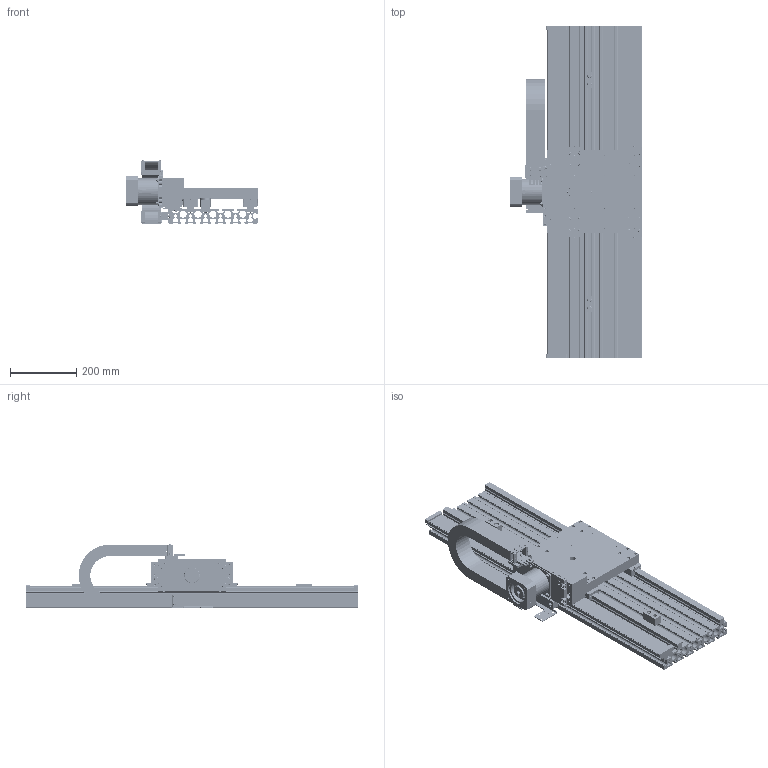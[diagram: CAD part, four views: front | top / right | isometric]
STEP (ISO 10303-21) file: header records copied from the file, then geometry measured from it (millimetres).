
FILE_DESCRIPTION( ( '' ), ' ' );
FILE_NAME( '/vol/tmp/translate-14925034404760815500/5c7eb100b628021adcd1ca6e.step', '2019-03-05T17:25:21', ( '' ), ( '' ), ' ', ' ', ' ' );
FILE_SCHEMA( ( 'AUTOMOTIVE_DESIGN { 1 0 10303 214 1 1 1 1 }' ) );
Length unit declared in the file: metre
Products named in the file (114): RAIL FASTENERS <9>; 20mm BEARING RAIL CAP; 102684-001 BOSCH 10mm T-BLOCK M5; 100001-8065 M5-.80 X 25 ALLOY SHCS; RAIL FASTENERS <16>; RAIL FASTENERS <2>; RAIL FASTENERS <4>; FASTENERS <3>; 100001-073 M6 X 12 SS SHCS; 102811-002 M6 T-NUT; RAIL FASTENERS <6>; RAIL FASTENERS <5>; RAIL FASTENERS <13>; FASTENERS <4>; RAIL FASTENERS <15>; RAIL FASTENERS <11>; RAIL FASTENERS <10>; RAIL FASTENERS <1>; RAIL FASTENERS <8>; FASTENERS <5>; RAIL FASTENERS <7>; RAIL FASTENERS <14>; RAIL FASTENERS <12>; RAIL FASTENERS <17>; FASTENERS <2>; RAIL FASTENERS <3>; FASTENERS <1>; IGUS E6-29-040 END BRACKET (1) <1>; iguse6-29-040-4(Default); iguse6-29-040-2; iguse6-29-040-1; iguse6-29-040-3(Default); RAIL <2>; 106888-001 20mm RAIL COVER; 102732-1000 20mm STANDARD GUIDE RAIL; RAIL <1>; POLYURETHANE BUMPLER <1>; 100033-001 3/8-16 POLYURETHANE BUMPER; 100003-015 3/8 SS FLAT WASHER; 100001-028 3/8-16 SS SOCKET HEAD CAP SCREW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
Assembly tree (300 placements, depth 5):
  Assem1
    103072-001 T10 X 50mm BELTING
    E6-29-40 LINKS
    1000 CHASSIS <1>
      102928-1000 45-SERIES PROFILE 45X270H
      RAIL <1>
        106888-001 20mm RAIL COVER
        102732-1000 20mm STANDARD GUIDE RAIL
        RAIL FASTENERS <12>
          20mm BEARING RAIL CAP
          100001-8065 M5-.80 X 25 ALLOY SHCS
          102684-001 BOSCH 10mm T-BLOCK M5
        RAIL FASTENERS <9>
          20mm BEARING RAIL CAP
          102684-001 BOSCH 10mm T-BLOCK M5
          100001-8065 M5-.80 X 25 ALLOY SHCS
        RAIL FASTENERS <10>
          20mm BEARING RAIL CAP
          102684-001 BOSCH 10mm T-BLOCK M5
          100001-8065 M5-.80 X 25 ALLOY SHCS
        RAIL FASTENERS <17>
          20mm BEARING RAIL CAP
          102684-001 BOSCH 10mm T-BLOCK M5
          100001-8065 M5-.80 X 25 ALLOY SHCS
        RAIL FASTENERS <4>
          100001-8065 M5-.80 X 25 ALLOY SHCS
          20mm BEARING RAIL CAP
          102684-001 BOSCH 10mm T-BLOCK M5
        RAIL FASTENERS <16>
          100001-8065 M5-.80 X 25 ALLOY SHCS
          102684-001 BOSCH 10mm T-BLOCK M5
          20mm BEARING RAIL CAP
        RAIL FASTENERS <5>
          20mm BEARING RAIL CAP
          102684-001 BOSCH 10mm T-BLOCK M5
          100001-8065 M5-.80 X 25 ALLOY SHCS
        RAIL FASTENERS <13>
          100001-8065 M5-.80 X 25 ALLOY SHCS
          102684-001 BOSCH 10mm T-BLOCK M5
          20mm BEARING RAIL CAP
        RAIL FASTENERS <6>
          20mm BEARING RAIL CAP
          102684-001 BOSCH 10mm T-BLOCK M5
          100001-8065 M5-.80 X 25 ALLOY SHCS
        RAIL FASTENERS <1>
          100001-8065 M5-.80 X 25 ALLOY SHCS
          102684-001 BOSCH 10mm T-BLOCK M5
          20mm BEARING RAIL CAP
        RAIL FASTENERS <14>
          100001-8065 M5-.80 X 25 ALLOY SHCS
          20mm BEARING RAIL CAP
          102684-001 BOSCH 10mm T-BLOCK M5
        RAIL FASTENERS <8>
          20mm BEARING RAIL CAP
          100001-8065 M5-.80 X 25 ALLOY SHCS
          102684-001 BOSCH 10mm T-BLOCK M5
        RAIL FASTENERS <7>
          100001-8065 M5-.80 X 25 ALLOY SHCS
          20mm BEARING RAIL CAP
          102684-001 BOSCH 10mm T-BLOCK M5
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Bounding box: 396.12 x 1000 x 189.79 mm (x, y, z)
Volume: 12189874.2 mm3; surface area: 3743972.1 mm2
Topology: 244 solids, 245 shells, 5941 faces, 15001 edges, 9921 vertices
Faces by surface type: plane 3828, cylinder 1643, cone 362, torus 98, sphere 6, bspline 4
Full cylindrical faces by diameter (mm): 1 x4, 2.2 x8, 2.5 x32, 2.54 x2, 2.6 x8, 2.66 x8, 3 x12, 3.3 x2, 3.6 x2, 3.988 x6, 4 x4, 4.2 x20, 4.216 x24, 4.5 x14, 5 x60, 5.004 x52, 5.1 x1, 5.5 x36, 5.8 x16, 5.867 x2, 5.994 x15, 6 x18, 6.2 x4, 6.4 x1, 6.5 x6, 6.6 x5, 6.8 x6, 6.858 x2, 7 x6, 7.112 x5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
Entity records: 105126 total; most frequent: CARTESIAN_POINT 16528, DIRECTION 14348, ORIENTED_EDGE 12802, EDGE_CURVE 6401, AXIS2_PLACEMENT_3D 5131, VERTEX_POINT 4511, LINE 4086, VECTOR 4086
